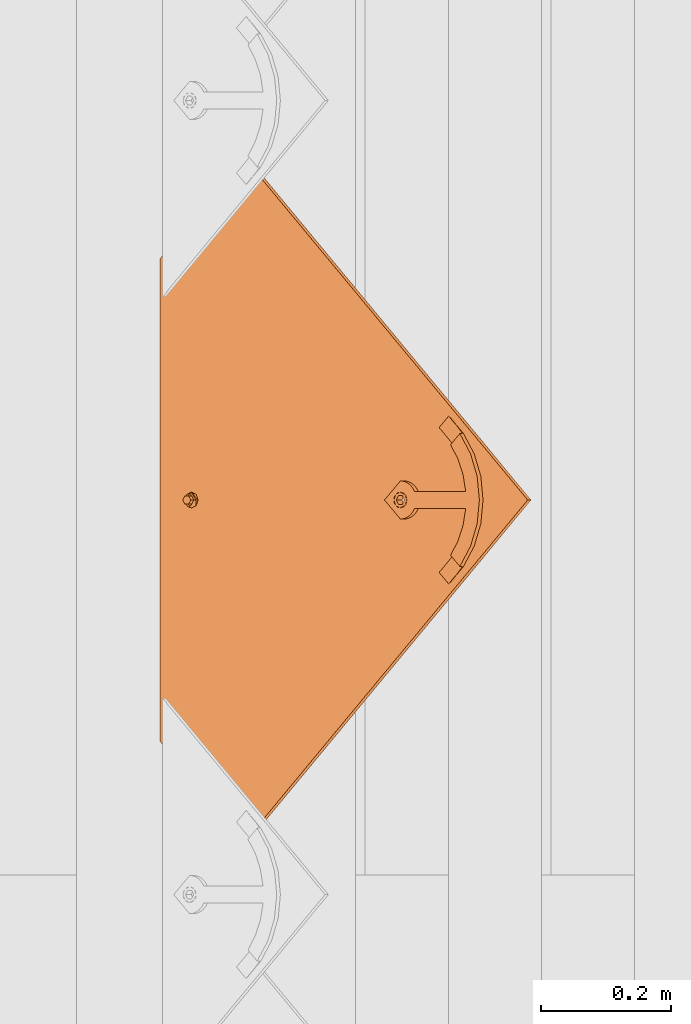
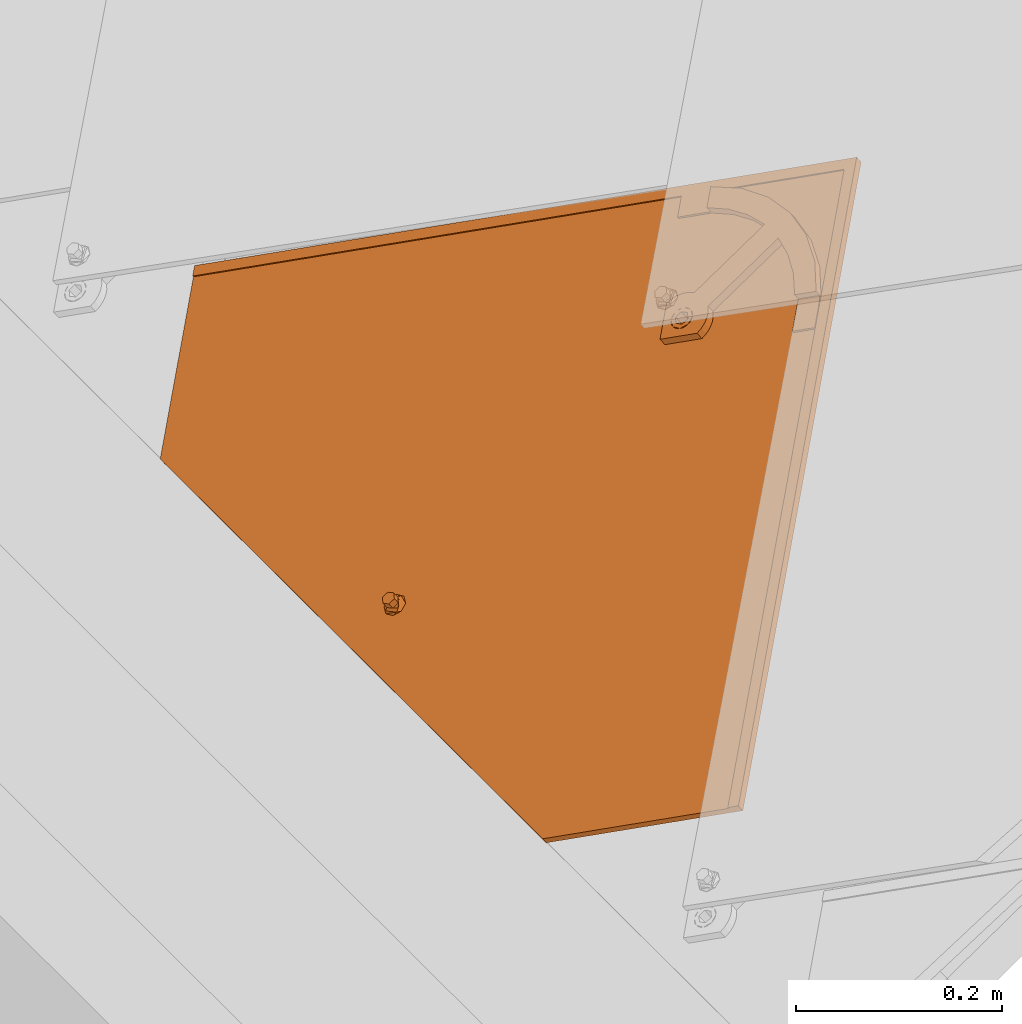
# One storey, part 52 of 133: 1 proxy.
"""IFC2X3 building model written with IfcOpenShell, lengths in millimetres."""

from ifc_helpers import new_model, entity, si_unit, converted_unit, derived_unit, direction, frame, origin, place, context, subcontext, project, spatial, faceted_brep, source, transform, mapped, material, material_list, type_object, type_shapes, element, save


model = new_model("IFC2X3")

# Units and contexts
model_context = context("Model", 3, precision=0.01, world=origin(), true_north=direction((6.12303176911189e-17, 1.0)))
body_context = subcontext(model_context, "Body", "Model", "MODEL_VIEW")
ifc_project = project(units=[si_unit("LENGTHUNIT", "METRE", prefix="MILLI"), si_unit("AREAUNIT", "SQUARE_METRE"), si_unit("VOLUMEUNIT", "CUBIC_METRE"), converted_unit("PLANEANGLEUNIT", "DEGREE", entity("IfcRatioMeasure", 0.0174532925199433), si_unit("PLANEANGLEUNIT", "RADIAN"), dimensions=[0, 0, 0, 0, 0, 0, 0]), si_unit("MASSUNIT", "GRAM", prefix="KILO"), derived_unit("MASSDENSITYUNIT", [(si_unit("MASSUNIT", "GRAM", prefix="KILO"), 1), (si_unit("LENGTHUNIT", "METRE"), -3)]), si_unit("TIMEUNIT", "SECOND"), si_unit("FREQUENCYUNIT", "HERTZ"), si_unit("THERMODYNAMICTEMPERATUREUNIT", "DEGREE_CELSIUS"), derived_unit("THERMALTRANSMITTANCEUNIT", [(si_unit("MASSUNIT", "GRAM", prefix="KILO"), 1), (si_unit("THERMODYNAMICTEMPERATUREUNIT", "KELVIN"), -1), (si_unit("TIMEUNIT", "SECOND"), -3)]), derived_unit("VOLUMETRICFLOWRATEUNIT", [(si_unit("LENGTHUNIT", "METRE"), 3), (si_unit("TIMEUNIT", "SECOND"), -1)]), si_unit("ELECTRICCURRENTUNIT", "AMPERE"), si_unit("ELECTRICVOLTAGEUNIT", "VOLT"), si_unit("POWERUNIT", "WATT"), si_unit("FORCEUNIT", "NEWTON", prefix="KILO"), si_unit("ILLUMINANCEUNIT", "LUX"), si_unit("LUMINOUSFLUXUNIT", "LUMEN"), si_unit("LUMINOUSINTENSITYUNIT", "CANDELA"), derived_unit("USERDEFINED", [(si_unit("MASSUNIT", "GRAM", prefix="KILO"), -1), (si_unit("LENGTHUNIT", "METRE"), -2), (si_unit("TIMEUNIT", "SECOND"), 3), (si_unit("LUMINOUSFLUXUNIT", "LUMEN"), 1)]), derived_unit("LINEARVELOCITYUNIT", [(si_unit("LENGTHUNIT", "METRE"), 1), (si_unit("TIMEUNIT", "SECOND"), -1)]), si_unit("PRESSUREUNIT", "PASCAL"), derived_unit("USERDEFINED", [(si_unit("LENGTHUNIT", "METRE"), -2), (si_unit("MASSUNIT", "GRAM", prefix="KILO"), 1), (si_unit("TIMEUNIT", "SECOND"), -2)])], contexts=[model_context])

# Site, building, storey
site_placement = place(None, origin())
site = spatial("IfcSite", under=ifc_project, at=site_placement, Name="Default", CompositionType="ELEMENT")
building_placement = place(site_placement, origin())
building = spatial("IfcBuilding", under=site, at=building_placement, CompositionType="ELEMENT")
storey_placement = place(building_placement, origin())
storey = spatial("IfcBuildingStorey", under=building, at=storey_placement, Name="Level 1", CompositionType="ELEMENT", Elevation=0.0)

# Proxy
ifc_material_1 = material(Name="Rubber - Sunstyle - Black")
ifc_material_2 = material(Name="Glass - Sunstyle - Tainted Black")
ifc_material_list_1 = material_list([ifc_material_1, ifc_material_2])
ifc_material_list_2 = material_list([ifc_material_1, ifc_material_2])
building_element_proxy_type = type_object("IfcBuildingElementProxyType", Name="Shingle Bottom - Black", PredefinedType="NOTDEFINED", material=ifc_material_list_2)
shared_shape = source(origin(), body_context, "Body", "Brep", [
    faceted_brep([(0.0, -1.79273515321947, -4.01619789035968), (-5.7742028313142, -5.12600528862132, -3.96037390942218), (-5.77420283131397, -4.75769619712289, 18.0314954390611), (0.0, -1.42442606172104, 17.9756714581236), (-5.77420283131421, -11.792545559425, -3.84872594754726), (-5.77420283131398, -11.4242364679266, 18.143143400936), (0.0, -15.1258156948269, -3.79290196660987), (0.0, -14.7575066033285, 18.1989673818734), (5.77420283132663, -11.7925455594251, -3.84872594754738), (5.77420283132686, -11.4242364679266, 18.1431434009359), (5.77420283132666, -5.12600528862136, -3.96037390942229), (5.77420283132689, -4.75769619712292, 18.031495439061), (-8.60370416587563, -16.6934641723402, 18.2313898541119), (0.0, -20.2567354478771, 18.2910657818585), (-12.1674751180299, -8.09096633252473, 18.0873194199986), (-8.60370416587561, 0.511531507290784, 17.9432489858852), (0.0, 4.07480278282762, 17.8835730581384), (8.60370416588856, 0.511531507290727, 17.9432489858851), (12.1674751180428, -8.09096633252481, 18.0873194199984), (8.60370416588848, -16.6934641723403, 18.2313898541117), (-11.4302228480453, -6.71737066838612, 20.4858706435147), (-9.77051349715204, -8.02009729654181, 22.3189355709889), (0.0, -0.706876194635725, 22.9603444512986), (0.0, 0.533621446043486, 22.3799978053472), (0.0, 2.69117229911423, 21.3706227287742), (-6.32324569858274, -4.35709193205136, 23.021476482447), (-6.32324569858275, -11.6575234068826, 23.1437405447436), (0.0, -18.7571148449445, 21.7298281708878), (0.0, -15.3077391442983, 23.2048725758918), (10.9851748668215, -11.808022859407, 20.3827540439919), (10.123850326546, -8.02413622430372, 22.0777687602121), (6.32324569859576, -4.3570919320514, 23.0214764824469), (6.32324569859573, -11.6575234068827, 23.1437405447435), (-6.32324569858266, -11.5234949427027, 31.146628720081), (0.0, -15.1737106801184, 31.2077607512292), (0.0, -7.8732792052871, 31.0854966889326), (-6.32324569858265, -4.22306346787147, 31.0243646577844), (6.32324569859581, -11.5234949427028, 31.1466287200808), (6.32324569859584, -4.22306346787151, 31.0243646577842), (0.0, -0.57284773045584, 30.963232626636), (0.0, -8.45927542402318, -3.90454992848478)], [[[0, 1, 2, 3]], [[1, 4, 5, 2]], [[4, 6, 7, 5]], [[6, 8, 9, 7]], [[8, 10, 11, 9]], [[10, 0, 3, 11]], [[12, 7, 13]], [[7, 12, 5]], [[14, 5, 12]], [[5, 14, 2]], [[15, 2, 14]], [[3, 2, 15]], [[15, 16, 3]], [[16, 17, 3]], [[11, 3, 17]], [[11, 17, 18]], [[9, 11, 18]], [[18, 19, 9]], [[7, 9, 19]], [[19, 13, 7]], [[15, 20, 16]], [[21, 22, 23, 24]], [[22, 21, 25]], [[20, 14, 12]], [[15, 14, 20]], [[25, 21, 26]], [[20, 24, 16]], [[12, 13, 27]], [[12, 27, 20]], [[21, 28, 26]], [[21, 27, 28]], [[20, 21, 24]], [[20, 27, 21]], [[19, 29, 13]], [[30, 23, 31]], [[30, 28, 27]], [[24, 23, 30]], [[29, 27, 13]], [[19, 18, 29]], [[29, 30, 27]], [[29, 17, 24]], [[24, 17, 16]], [[31, 32, 30]], [[23, 22, 31]], [[28, 30, 32]], [[29, 24, 30]], [[29, 18, 17]], [[33, 34, 35]], [[35, 36, 33]], [[34, 37, 35]], [[38, 35, 37]], [[35, 38, 39]], [[35, 39, 36]], [[40, 6, 4]], [[4, 1, 40]], [[1, 0, 40]], [[40, 8, 6]], [[0, 10, 40]], [[8, 40, 10]], [[22, 25, 36, 39]], [[25, 26, 33, 36]], [[26, 28, 34, 33]], [[28, 32, 37, 34]], [[32, 31, 38, 37]], [[31, 22, 39, 38]]]),
    faceted_brep([(0.0, 372.824876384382, 20.3195200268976), (0.0, 377.324245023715, 20.2441667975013), (-8.60370416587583, 376.388147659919, 20.2598440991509), (8.60370416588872, 376.388147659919, 20.2598440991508), (6.64022859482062, 381.157445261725, 20.1799702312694), (12.1674751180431, 384.990645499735, 20.1157736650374), (6.64022859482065, 388.823845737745, 20.0515770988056), (8.6037041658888, 393.59314333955, 19.9717032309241), (0.0, 392.657045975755, 19.9873805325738), (0.0, 397.156414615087, 19.9120273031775), (-8.60370416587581, 393.59314333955, 19.9717032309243), (-6.64022859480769, 388.823845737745, 20.0515770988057), (-12.1674751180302, 384.990645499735, 20.1157736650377), (-6.6402285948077, 381.157445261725, 20.1799702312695), (-6.6402282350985, 388.555922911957, 4.05382046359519), (0.0, 392.389122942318, 3.98962390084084), (-6.64022823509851, 380.889522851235, 4.18221358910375), (0.0, 377.056322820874, 4.24641015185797), (6.64022823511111, 380.889522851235, 4.18221358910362), (6.64022823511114, 388.555922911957, 4.05382046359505), (-8.603704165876, 376.12022504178, 4.26208746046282), (0.0, 372.556953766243, 4.32176338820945), (-12.1674751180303, 384.722722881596, 4.11801702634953), (-8.60370416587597, 393.325220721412, 3.97394659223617), (0.0, 396.888491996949, 3.91427066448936), (8.60370416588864, 393.325220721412, 3.97394659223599), (12.1674751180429, 384.722722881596, 4.11801702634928), (8.60370416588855, 376.12022504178, 4.26208746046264)], [[[0, 1, 2]], [[1, 0, 3]], [[3, 4, 1]], [[4, 3, 5]], [[6, 4, 5]], [[5, 7, 6]], [[7, 8, 6]], [[8, 7, 9]], [[8, 9, 10]], [[10, 11, 8]], [[12, 11, 10]], [[2, 13, 12]], [[12, 13, 11]], [[13, 2, 1]], [[8, 11, 14, 15]], [[11, 13, 16, 14]], [[13, 1, 17, 16]], [[1, 4, 18, 17]], [[4, 6, 19, 18]], [[6, 8, 15, 19]], [[20, 17, 21]], [[17, 20, 16]], [[22, 16, 20]], [[14, 16, 22]], [[23, 14, 22]], [[15, 14, 23]], [[23, 24, 15]], [[24, 25, 15]], [[19, 15, 25]], [[19, 25, 26]], [[26, 18, 19]], [[26, 27, 18]], [[17, 18, 27]], [[27, 21, 17]], [[24, 23, 10, 9]], [[10, 23, 22, 12]], [[20, 21, 0, 2]], [[20, 2, 12, 22]], [[21, 27, 3, 0]], [[3, 27, 26, 5]], [[25, 24, 9, 7]], [[25, 7, 5, 26]]]),
    faceted_brep([(518.247351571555, 79.9143812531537, 14.965257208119), (526.732038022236, 88.3990677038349, 14.8231598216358), (526.732038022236, 88.4241854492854, 16.3229495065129), (518.247351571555, 79.9394989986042, 16.4650468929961), (0.000322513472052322, 598.016093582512, 6.28834266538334), (-518.246706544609, 79.9143812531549, 14.9652572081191), (-526.73139299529, 88.3990677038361, 14.8231598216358), (0.000322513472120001, 614.983087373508, 6.00418773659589), (0.000322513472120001, 615.008205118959, 7.50397742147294), (-526.731392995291, 88.4241854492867, 16.3229495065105), (-518.246706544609, 79.9394989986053, 16.465046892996), (0.000322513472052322, 598.041211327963, 7.78813235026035)], [[[0, 1, 2, 3]], [[1, 0, 4, 5, 6, 7]], [[2, 1, 7, 8]], [[3, 2, 8, 9, 10, 11]], [[0, 3, 11, 4]], [[5, 10, 9, 6]], [[8, 7, 6, 9]], [[4, 11, 10, 5]]]),
    faceted_brep([(0.00032251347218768, 614.983087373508, 6.00418773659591), (-2.87802047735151, 396.187349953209, 9.66847193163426), (0.227808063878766, 396.596182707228, 9.6616250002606), (-5.77219193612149, 394.988712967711, 9.68854611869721), (3.3336366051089, 396.187349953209, 9.66847193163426), (6.22780806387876, 394.988712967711, 9.6885461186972), (8.71308943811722, 393.081956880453, 9.72047953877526), (10.620112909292, 390.59702396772, 9.76209598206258), (-8.25747331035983, 393.081956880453, 9.72047953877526), (-10.1644967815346, 390.59702396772, 9.76209598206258), (-11.3633018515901, 387.703258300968, 9.81055935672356), (-526.731392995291, 88.3990677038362, 14.8231598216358), (11.8189179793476, 387.703258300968, 9.81055935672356), (526.732038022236, 88.3990677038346, 14.8231598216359), (-11.7721919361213, 384.597865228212, 9.86256696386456), (-11.3633018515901, 381.492472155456, 9.91457457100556), (-10.1644967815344, 378.598706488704, 9.96303794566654), (-370.355016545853, -67.9334607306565, 17.4413406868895), (-8.25747331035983, 376.113773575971, 10.0046543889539), (-5.65685424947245, -2.29422365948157, 16.3420467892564), (-6.92820323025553, -3.95084560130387, 16.3697910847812), (-7.72740661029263, -5.88002271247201, 16.4021000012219), (-8.0, -7.95028476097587, 16.4367717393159), (-7.72740661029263, -10.0205468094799, 16.4714434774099), (-6.9282032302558, -11.9497239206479, 16.5037523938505), (-5.65685424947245, -13.6063458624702, 16.5314966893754), (-4.0, -14.8775165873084, 16.5527856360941), (-2.07055236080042, -15.676607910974, 16.5661684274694), (0.0, -15.9491630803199, 16.5707330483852), (370.355661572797, -67.9334607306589, 17.4413406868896), (10.620112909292, 378.598706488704, 9.96303794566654), (8.71308943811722, 376.11377357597, 10.0046543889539), (5.65685424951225, -2.29422365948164, 16.3420467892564), (6.92820323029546, -3.9508456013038, 16.3697910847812), (7.72740661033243, -5.88002271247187, 16.4021000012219), (8.0, -7.9502847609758, 16.4367717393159), (7.72740661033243, -10.0205468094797, 16.4714434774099), (6.92820323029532, -11.9497239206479, 16.5037523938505), (5.65685424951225, -13.6063458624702, 16.5314966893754), (4.0, -14.8775165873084, 16.5527856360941), (2.07055236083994, -15.676607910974, 16.5661684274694), (-5.77219193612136, 374.207017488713, 10.0365878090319), (-4.0, -1.02305293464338, 16.3207578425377), (-2.87802047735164, 373.008380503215, 10.0566619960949), (-2.07055236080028, -0.223961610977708, 16.3073750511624), (0.227808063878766, 372.599547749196, 10.0635089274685), (0.0, 0.0485935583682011, 16.3028104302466), (2.07055236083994, -0.223961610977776, 16.3073750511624), (3.3336366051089, 373.008380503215, 10.0566619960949), (4.0, -1.02305293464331, 16.3207578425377), (6.22780806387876, 374.207017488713, 10.0365878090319), (12.2278080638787, 384.597865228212, 9.86256696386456), (11.8189179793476, 381.492472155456, 9.91457457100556), (-370.355016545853, -68.059049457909, 9.94239226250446), (-6.92820323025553, -4.07643432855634, 8.87084266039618), (-7.72740661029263, -6.00561143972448, 8.90315157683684), (-8.0, -8.07587348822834, 8.93782331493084), (-7.72740661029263, -10.1461355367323, 8.97249505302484), (-6.9282032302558, -12.0753126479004, 9.00480396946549), (-5.65685424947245, -13.7319345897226, 9.03254826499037), (-5.65685424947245, -2.41981238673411, 8.8430983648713), (-8.25747331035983, 375.988184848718, 2.50570596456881), (-4.0, -15.0031053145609, 9.05383721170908), (-2.07055236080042, -15.8021966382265, 9.06722000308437), (0.0, -16.0747518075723, 9.07178462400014), (370.355661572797, -68.0590494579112, 9.9423922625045), (-10.1644967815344, 378.473117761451, 2.46408952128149), (-526.731392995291, 88.2734789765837, 7.32421139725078), (-11.3633018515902, 381.366883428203, 2.41562614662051), (-11.7721919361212, 384.472276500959, 2.36361853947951), (-11.3633018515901, 387.577669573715, 2.3116109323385), (0.00032251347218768, 614.857498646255, -1.49476068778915), (-10.1644967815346, 390.471435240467, 2.26314755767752), (-8.25747331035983, 392.956368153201, 2.22153111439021), (-5.77219193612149, 394.863124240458, 2.18959769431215), (-2.87802047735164, 396.061761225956, 2.16952350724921), (0.227808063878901, 396.470593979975, 2.16267657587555), (3.3336366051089, 396.061761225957, 2.1695235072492), (6.22780806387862, 394.863124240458, 2.18959769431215), (8.71308943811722, 392.956368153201, 2.2215311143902), (10.620112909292, 390.471435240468, 2.26314755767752), (11.8189179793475, 387.577669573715, 2.31161093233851), (526.732038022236, 88.2734789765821, 7.32421139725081), (12.2278080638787, 384.472276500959, 2.3636185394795), (10.620112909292, 378.473117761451, 2.46408952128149), (11.8189179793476, 381.366883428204, 2.41562614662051), (-5.77219193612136, 374.08142876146, 2.53763938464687), (-4.0, -1.14864166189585, 8.8218094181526), (-2.87802047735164, 372.882791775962, 2.55771357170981), (-2.07055236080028, -0.349550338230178, 8.8084266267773), (0.227808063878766, 372.473959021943, 2.56456050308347), (0.0, -0.0769951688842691, 8.80386200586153), (2.07055236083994, -0.349550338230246, 8.8084266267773), (3.3336366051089, 372.882791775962, 2.55771357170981), (4.0, -1.14864166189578, 8.8218094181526), (6.22780806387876, 374.081428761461, 2.53763938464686), (5.65685424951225, -2.41981238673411, 8.8430983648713), (8.71308943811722, 375.988184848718, 2.50570596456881), (6.92820323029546, -4.07643432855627, 8.87084266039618), (7.72740661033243, -6.00561143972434, 8.90315157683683), (8.0, -8.07587348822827, 8.93782331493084), (7.72740661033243, -10.1461355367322, 8.97249505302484), (6.92820323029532, -12.0753126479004, 9.00480396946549), (5.65685424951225, -13.7319345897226, 9.03254826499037), (4.0, -15.0031053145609, 9.05383721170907), (2.07055236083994, -15.8021966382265, 9.06722000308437)], [[[0, 1, 2]], [[1, 0, 3]], [[0, 2, 4]], [[4, 5, 0]], [[5, 6, 0]], [[0, 6, 7]], [[8, 3, 0]], [[9, 8, 0]], [[9, 0, 10]], [[10, 0, 11]], [[12, 0, 7]], [[12, 13, 0]], [[11, 14, 10]], [[14, 11, 15]], [[16, 15, 11]], [[11, 17, 16]], [[16, 17, 18]], [[19, 18, 17]], [[19, 17, 20]], [[20, 17, 21]], [[22, 21, 17]], [[22, 17, 23]], [[24, 23, 17]], [[17, 25, 24]], [[26, 25, 17]], [[27, 26, 17]], [[17, 28, 27]], [[28, 17, 29]], [[29, 13, 30]], [[29, 30, 31]], [[29, 31, 32]], [[32, 33, 29]], [[33, 34, 29]], [[35, 29, 34]], [[29, 35, 36]], [[36, 37, 29]], [[29, 37, 38]], [[38, 39, 29]], [[40, 28, 29]], [[39, 40, 29]], [[41, 18, 19]], [[42, 41, 19]], [[42, 43, 41]], [[44, 43, 42]], [[44, 45, 43]], [[46, 45, 44]], [[47, 45, 46]], [[48, 45, 47]], [[49, 48, 47]], [[49, 50, 48]], [[32, 50, 49]], [[32, 31, 50]], [[12, 51, 13]], [[52, 13, 51]], [[13, 52, 30]], [[53, 54, 55]], [[53, 55, 56]], [[56, 57, 53]], [[57, 58, 53]], [[53, 58, 59]], [[60, 54, 53]], [[61, 60, 53]], [[59, 62, 53]], [[62, 63, 53]], [[63, 64, 53]], [[53, 64, 65]], [[66, 61, 53]], [[66, 53, 67]], [[68, 66, 67]], [[69, 68, 67]], [[69, 67, 70]], [[67, 71, 70]], [[72, 70, 71]], [[73, 72, 71]], [[71, 74, 73]], [[74, 71, 75]], [[75, 71, 76]], [[77, 76, 71]], [[77, 71, 78]], [[79, 78, 71]], [[71, 80, 79]], [[80, 71, 81]], [[71, 82, 81]], [[83, 81, 82]], [[84, 82, 65]], [[85, 82, 84]], [[82, 85, 83]], [[86, 60, 61]], [[86, 87, 60]], [[88, 87, 86]], [[89, 87, 88]], [[90, 89, 88]], [[90, 91, 89]], [[92, 91, 90]], [[92, 90, 93]], [[94, 92, 93]], [[93, 95, 94]], [[94, 95, 96]], [[97, 96, 95]], [[96, 97, 65]], [[84, 65, 97]], [[98, 96, 65]], [[99, 98, 65]], [[99, 65, 100]], [[101, 100, 65]], [[102, 101, 65]], [[103, 102, 65]], [[104, 103, 65]], [[105, 104, 65]], [[65, 64, 105]], [[11, 0, 71, 67]], [[17, 11, 67, 53]], [[13, 29, 65, 82]], [[0, 13, 82, 71]], [[22, 56, 55, 21]], [[21, 55, 54, 20]], [[42, 19, 60, 87]], [[60, 19, 20, 54]], [[44, 42, 87, 89]], [[44, 89, 91, 46]], [[46, 91, 92, 47]], [[47, 92, 94, 49]], [[33, 32, 96, 98]], [[96, 32, 49, 94]], [[34, 33, 98, 99]], [[34, 99, 100, 35]], [[35, 100, 101, 36]], [[36, 101, 102, 37]], [[39, 38, 103, 104]], [[103, 38, 37, 102]], [[40, 39, 104, 105]], [[40, 105, 64, 28]], [[28, 64, 63, 27]], [[27, 63, 62, 26]], [[24, 25, 59, 58]], [[59, 25, 26, 62]], [[23, 24, 58, 57]], [[23, 57, 56, 22]], [[14, 69, 70, 10]], [[10, 70, 72, 9]], [[3, 8, 73, 74]], [[73, 8, 9, 72]], [[1, 3, 74, 75]], [[1, 75, 76, 2]], [[2, 76, 77, 4]], [[4, 77, 78, 5]], [[7, 6, 79, 80]], [[79, 6, 5, 78]], [[12, 7, 80, 81]], [[12, 81, 83, 51]], [[51, 83, 85, 52]], [[52, 85, 84, 30]], [[50, 31, 97, 95]], [[97, 31, 30, 84]], [[48, 50, 95, 93]], [[48, 93, 90, 45]], [[45, 90, 88, 43]], [[43, 88, 86, 41]], [[16, 18, 61, 66]], [[41, 86, 61, 18]], [[68, 15, 16, 66]], [[15, 68, 69, 14]], [[29, 17, 53, 65]]]),
    faceted_brep([(-111.269043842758, 451.472531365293, 11.2429332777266), (-84.9443960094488, 477.793488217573, 10.8021227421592), (-102.027571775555, 494.874268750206, 10.5160621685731), (-108.279973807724, 489.512620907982, 10.6058564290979), (-114.2509690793, 483.839345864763, 10.7008696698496), (-128.946713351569, 469.147722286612, 10.9469178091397), (128.946713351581, 469.147722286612, 10.9469178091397), (114.250969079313, 483.839345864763, 10.7008696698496), (108.279973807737, 489.512620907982, 10.6058564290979), (102.027571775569, 494.874268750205, 10.5160621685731), (84.9431983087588, 477.794685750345, 10.802102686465), (111.269043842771, 451.472531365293, 11.2429332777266), (-8.48528137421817, 393.302959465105, 19.7181805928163), (-18.7041061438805, 407.484939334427, 19.4806677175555), (-23.2046504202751, 402.851933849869, 19.5582590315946), (-10.3923048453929, 390.818026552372, 19.7597970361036), (-6.0, 395.209715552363, 19.6862471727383), (-13.2999999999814, 411.02298750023, 19.4214142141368), (-3.10582854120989, 396.408352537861, 19.6661729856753), (0.0, 396.81718529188, 19.6593260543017), (13.3000000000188, 411.022987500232, 19.4214142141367), (3.10582854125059, 396.408352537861, 19.6661729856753), (6.0, 395.209715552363, 19.6862471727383), (18.7041061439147, 407.484939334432, 19.4806677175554), (8.48528137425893, 393.302959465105, 19.7181805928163), (23.2046504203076, 402.85193384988, 19.5582590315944), (10.3923048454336, 390.818026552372, 19.7597970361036), (26.5842195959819, 397.347783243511, 19.6504398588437), (11.5911099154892, 387.92426088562, 19.8082604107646), (28.6795527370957, 391.238383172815, 19.752757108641), (12.0, 384.818867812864, 19.8602680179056), (29.3894280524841, 384.818867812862, 19.8602680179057), (11.5911099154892, 381.713474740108, 19.9122756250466), (10.3923048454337, 378.819709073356, 19.9607389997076), (8.48528137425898, 376.334776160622, 20.0023554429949), (0.0, 355.433560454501, 20.3523987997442), (6.0, 374.428020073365, 20.034288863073), (3.10582854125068, 373.229383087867, 20.0543630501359), (0.0, 372.820550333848, 20.0612099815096), (-3.10582854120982, 373.229383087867, 20.0543630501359), (-6.0, 374.428020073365, 20.034288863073), (-8.48528137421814, 376.334776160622, 20.0023554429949), (-29.3894280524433, 384.818867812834, 19.8602680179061), (-10.3923048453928, 378.819709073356, 19.9607389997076), (-11.5911099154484, 381.713474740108, 19.9122756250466), (-12.0, 384.818867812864, 19.8602680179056), (-28.67955273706, 391.238383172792, 19.7527571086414), (-11.5911099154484, 387.92426088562, 19.8082604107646), (-26.5842195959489, 397.347783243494, 19.650439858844), (-13.2999999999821, 505.810987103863, 17.833951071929), (13.3000000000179, 505.810987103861, 17.833951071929), (0.0, 531.282600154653, 17.4073649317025), (36.4908407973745, 527.108634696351, 17.4772684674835), (38.7697427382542, 500.996106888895, 17.9145883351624), (71.096085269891, 514.802420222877, 17.6833669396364), (62.9243331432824, 491.592473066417, 18.0720758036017), (102.027571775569, 494.999857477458, 18.0150105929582), (84.9443960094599, 477.919076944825, 18.3010711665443), (-36.4908407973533, 527.108634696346, 17.4772684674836), (-38.7697427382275, 500.996106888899, 17.9145883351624), (-71.0960852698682, 514.802420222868, 17.6833669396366), (-62.9243331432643, 491.592473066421, 18.0720758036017), (-102.027571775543, 494.999857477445, 18.0150105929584), (-84.9443960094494, 477.919076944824, 18.3010711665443), (0.0, 355.266108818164, 10.3538009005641), (0.0, 372.653098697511, 10.0626120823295), (3.10582854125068, 373.06193145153, 10.0557651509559), (-3.10582854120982, 373.06193145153, 10.0557651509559), (6.0, 374.260568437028, 10.0356909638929), (8.48528137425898, 376.167324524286, 10.0037575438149), (29.3894280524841, 384.651416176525, 9.86167011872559), (-6.0, 374.260568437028, 10.0356909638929), (-8.48528137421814, 376.167324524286, 10.0037575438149), (-29.3894280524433, 384.651416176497, 9.86167011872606), (-10.3923048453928, 378.652257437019, 9.96214110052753), (-11.5911099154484, 381.546023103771, 9.91367772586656), (-12.0, 384.651416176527, 9.86167011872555), (-28.67955273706, 391.070931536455, 9.75415920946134), (-11.5911099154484, 387.756809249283, 9.80966251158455), (-26.5842195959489, 397.180331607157, 9.65184195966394), (-10.3923048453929, 390.650574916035, 9.76119913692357), (-23.2046504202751, 402.684482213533, 9.5596611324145), (-8.48528137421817, 393.135507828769, 9.71958269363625), (-18.7041061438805, 407.31748769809, 9.48206981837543), (-6.0, 395.042263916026, 9.6876492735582), (-13.2999999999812, 410.855535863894, 9.4228163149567), (-3.10582854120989, 396.240900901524, 9.66757508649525), (0.0, 396.649733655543, 9.66072815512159), (13.3000000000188, 410.855535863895, 9.42281631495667), (-13.2999999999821, 505.643535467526, 7.83535317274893), (13.3000000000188, 505.643535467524, 7.83535317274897), (0.0, 531.115148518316, 7.4087670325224), (-36.4908407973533, 526.94118306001, 7.47867056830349), (-38.7697427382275, 500.828655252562, 7.91599043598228), (-71.0960852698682, 514.634968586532, 7.68476904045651), (-62.9243331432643, 491.425021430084, 8.07347790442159), (-102.027571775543, 494.832405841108, 8.01641269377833), (-84.9431983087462, 477.752822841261, 8.30245321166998), (-108.279973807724, 489.470757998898, 8.10620695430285), (-114.2509690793, 483.79748295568, 8.2012201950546), (-111.269043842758, 451.430668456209, 8.74328380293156), (-128.946713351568, 469.105859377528, 8.44726833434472), (36.4908407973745, 526.941183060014, 7.47867056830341), (38.7697427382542, 500.828655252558, 7.91599043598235), (71.096085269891, 514.634968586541, 7.68476904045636), (62.9243331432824, 491.425021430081, 8.07347790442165), (102.027571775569, 494.832405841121, 8.01641269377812), (84.9443960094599, 477.751625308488, 8.30247326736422), (108.279973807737, 489.470757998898, 8.10620695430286), (114.250969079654, 483.797482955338, 8.20122019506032), (111.269043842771, 451.430668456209, 8.74328380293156), (128.946713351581, 469.105859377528, 8.44726833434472), (3.10582854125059, 396.240900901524, 9.66757508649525), (6.0, 395.042263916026, 9.6876492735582), (18.7041061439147, 407.317487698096, 9.48206981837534), (8.48528137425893, 393.135507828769, 9.71958269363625), (23.2046504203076, 402.684482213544, 9.55966113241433), (10.3923048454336, 390.650574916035, 9.76119913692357), (26.5842195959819, 397.180331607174, 9.65184195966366), (11.5911099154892, 387.756809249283, 9.80966251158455), (28.6795527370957, 391.070931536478, 9.75415920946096), (12.0, 384.651416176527, 9.86167011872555), (11.5911099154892, 381.546023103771, 9.91367772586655), (10.3923048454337, 378.652257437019, 9.96214110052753)], [[[0, 1, 2, 3, 4, 5]], [[6, 7, 8, 9, 10, 11]], [[12, 13, 14]], [[15, 12, 14]], [[16, 13, 12]], [[13, 16, 17]], [[17, 16, 18]], [[18, 19, 17]], [[20, 17, 19]], [[19, 21, 20]], [[22, 20, 21]], [[22, 23, 20]], [[22, 24, 23]], [[25, 23, 24]], [[26, 25, 24]], [[25, 26, 27]], [[26, 28, 27]], [[29, 27, 28]], [[28, 30, 29]], [[31, 29, 30]], [[30, 32, 31]], [[32, 33, 31]], [[31, 33, 34]], [[34, 35, 31]], [[34, 36, 35]], [[37, 35, 36]], [[38, 35, 37]], [[35, 38, 39]], [[40, 35, 39]], [[40, 41, 35]], [[42, 35, 41]], [[43, 42, 41]], [[43, 44, 42]], [[44, 45, 42]], [[45, 46, 42]], [[46, 45, 47]], [[48, 46, 47]], [[47, 15, 48]], [[48, 15, 14]], [[20, 49, 17]], [[49, 20, 50]], [[51, 49, 50]], [[50, 52, 51]], [[53, 52, 50]], [[52, 53, 54]], [[55, 54, 53]], [[54, 55, 56]], [[55, 57, 56]], [[58, 49, 51]], [[49, 58, 59]], [[60, 59, 58]], [[60, 61, 59]], [[61, 60, 62]], [[61, 62, 63]], [[64, 65, 66]], [[65, 64, 67]], [[64, 66, 68]], [[68, 69, 64]], [[64, 69, 70]], [[71, 67, 64]], [[71, 64, 72]], [[72, 64, 73]], [[73, 74, 72]], [[74, 73, 75]], [[76, 75, 73]], [[77, 76, 73]], [[76, 77, 78]], [[78, 77, 79]], [[80, 78, 79]], [[81, 80, 79]], [[82, 80, 81]], [[81, 83, 82]], [[83, 84, 82]], [[84, 83, 85]], [[85, 86, 84]], [[87, 86, 85]], [[87, 85, 88]], [[88, 85, 89]], [[88, 89, 90]], [[89, 91, 90]], [[91, 89, 92]], [[93, 92, 89]], [[94, 92, 93]], [[93, 95, 94]], [[95, 96, 94]], [[97, 96, 95]], [[98, 96, 97]], [[99, 98, 97]], [[97, 100, 99]], [[101, 99, 100]], [[102, 90, 91]], [[90, 102, 103]], [[104, 103, 102]], [[103, 104, 105]], [[105, 104, 106]], [[107, 105, 106]], [[107, 106, 108]], [[109, 107, 108]], [[110, 107, 109]], [[111, 110, 109]], [[87, 88, 112]], [[113, 112, 88]], [[114, 113, 88]], [[115, 113, 114]], [[115, 114, 116]], [[116, 117, 115]], [[116, 118, 117]], [[117, 118, 119]], [[119, 118, 120]], [[121, 119, 120]], [[120, 70, 121]], [[122, 121, 70]], [[70, 69, 123]], [[123, 122, 70]], [[17, 49, 89, 85]], [[13, 17, 85, 83]], [[14, 13, 83, 81]], [[81, 79, 48, 14]], [[46, 48, 79, 77]], [[42, 46, 77, 73]], [[35, 42, 73, 64]], [[31, 35, 64, 70]], [[29, 31, 70, 120]], [[27, 29, 120, 118]], [[118, 116, 25, 27]], [[23, 25, 116, 114]], [[20, 23, 114, 88]], [[50, 20, 88, 90]], [[9, 106, 104, 54, 56]], [[52, 54, 104, 102]], [[51, 52, 102, 91]], [[58, 51, 91, 92]], [[94, 96, 2, 62, 60]], [[60, 58, 92, 94]], [[45, 76, 78, 47]], [[47, 78, 80, 15]], [[16, 12, 82, 84]], [[80, 82, 12, 15]], [[18, 16, 84, 86]], [[87, 19, 18, 86]], [[21, 112, 113, 22]], [[22, 113, 115, 24]], [[28, 26, 117, 119]], [[115, 117, 26, 24]], [[30, 28, 119, 121]], [[21, 19, 87, 112]], [[30, 121, 122, 32]], [[32, 122, 123, 33]], [[36, 34, 69, 68]], [[123, 69, 34, 33]], [[37, 36, 68, 66]], [[65, 38, 37, 66]], [[39, 67, 71, 40]], [[40, 71, 72, 41]], [[44, 43, 74, 75]], [[72, 74, 43, 41]], [[45, 44, 75, 76]], [[39, 38, 65, 67]], [[7, 6, 111, 109]], [[6, 11, 110, 111]], [[7, 109, 108, 8]], [[108, 106, 9, 8]], [[11, 10, 107, 110]], [[0, 5, 101, 100]], [[1, 0, 100, 97]], [[2, 96, 98, 3]], [[98, 99, 4, 3]], [[5, 4, 99, 101]], [[63, 62, 2, 1]], [[56, 57, 10]], [[10, 9, 56]], [[1, 95, 61, 63]], [[1, 97, 95]], [[93, 89, 49, 59]], [[95, 93, 59, 61]], [[90, 103, 53, 50]], [[103, 105, 55, 53]], [[10, 57, 55]], [[107, 10, 105]], [[55, 105, 10]]]),
])
type_shapes(building_element_proxy_type, [shared_shape])
proxy_placement = place(storey_placement, frame((-2327.24013143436, 2031.70434847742, 355.972593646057), z_axis=(-0.57357643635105, 0.0, 0.819152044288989), x_axis=(0.0, -1.0, 0.0)))
element("IfcBuildingElementProxy", 1, at=proxy_placement, inside=storey, type_object=building_element_proxy_type, material=ifc_material_list_1, Name="Roofing_Panels_SunStyle_Tile_Shingle-Bottom:Shingle Bottom - Black", ObjectType="Roofing_Panels_SunStyle_Tile_Shingle-Bottom:Shingle Bottom - Black", context=body_context, shape_type="MappedRepresentation", body=[
    mapped(shared_shape, transform((0.0, 0.0, 0.0), scale=1.0)),
])

save(model, "model.ifc")
